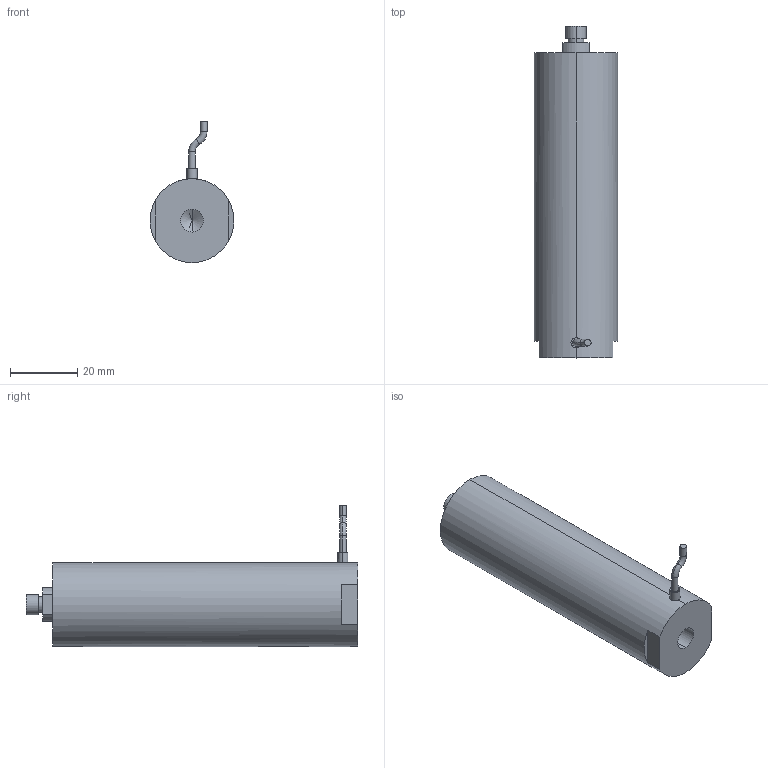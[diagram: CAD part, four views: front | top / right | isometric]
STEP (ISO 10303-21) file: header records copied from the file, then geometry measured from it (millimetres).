
FILE_DESCRIPTION (( 'STEP AP203' ), '1' );
FILE_NAME ('ﾍ篦ﾝﾎﾆﾊｽ80VS25.STEP', '2021-07-08T08:02:24', ( 'ﾎ｢ﾈ橆ﾃｻｧ' ), ( 'ﾎ｢ﾈ晥ｫﾋｾ' ), 'SwSTEP 2.0', 'SolidWorks 2016', '' );
FILE_SCHEMA (( 'CONFIG_CONTROL_DESIGN' ));
Products named in the file (1): 俋蹟恇宒80VS25
Bounding box: 25 x 99 x 42.06 mm (x, y, z)
Volume: 44541.7 mm3; surface area: 8691.1 mm2
Topology: 1 solids, 1 shells, 945 faces, 2561 edges, 1699 vertices
Faces by surface type: bspline 523, plane 307, cylinder 109, torus 4, cone 2
Entity records: 45188 total; most frequent: CARTESIAN_POINT 26043, ORIENTED_EDGE 5110, EDGE_CURVE 2555, DIRECTION 1947, B_SPLINE_CURVE_WITH_KNOTS 1728, VERTEX_POINT 1697, EDGE_LOOP 1030, ADVANCED_FACE 945
